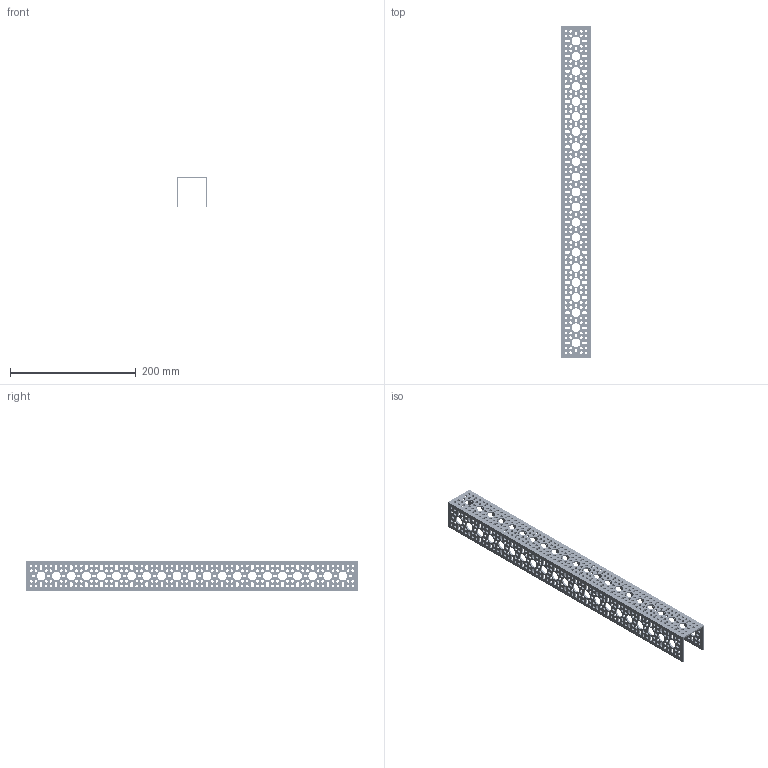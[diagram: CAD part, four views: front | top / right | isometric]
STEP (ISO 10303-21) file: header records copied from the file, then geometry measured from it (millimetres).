
FILE_DESCRIPTION (( 'STEP AP203' ), '1' );
FILE_NAME ('1100-0021-0528 rev1.STEP', '2017-05-12T21:18:27', ( '' ), ( '' ), 'SwSTEP 2.0', 'SolidWorks 2016', '' );
FILE_SCHEMA (( 'CONFIG_CONTROL_DESIGN' ));
Products named in the file (1): 1100-0021-0528 rev1
Bounding box: 48 x 528 x 48 mm (x, y, z)
Volume: 127992.8 mm3; surface area: 139587.2 mm2
Topology: 1 solids, 1 shells, 2815 faces, 8439 edges, 5626 vertices
Faces by surface type: cylinder 1893, plane 922
Entity records: 99848 total; most frequent: DIRECTION 17857, CARTESIAN_POINT 16881, ORIENTED_EDGE 16878, EDGE_CURVE 8439, AXIS2_PLACEMENT_3D 6602, VERTEX_POINT 5626, VECTOR 4653, LINE 4653
